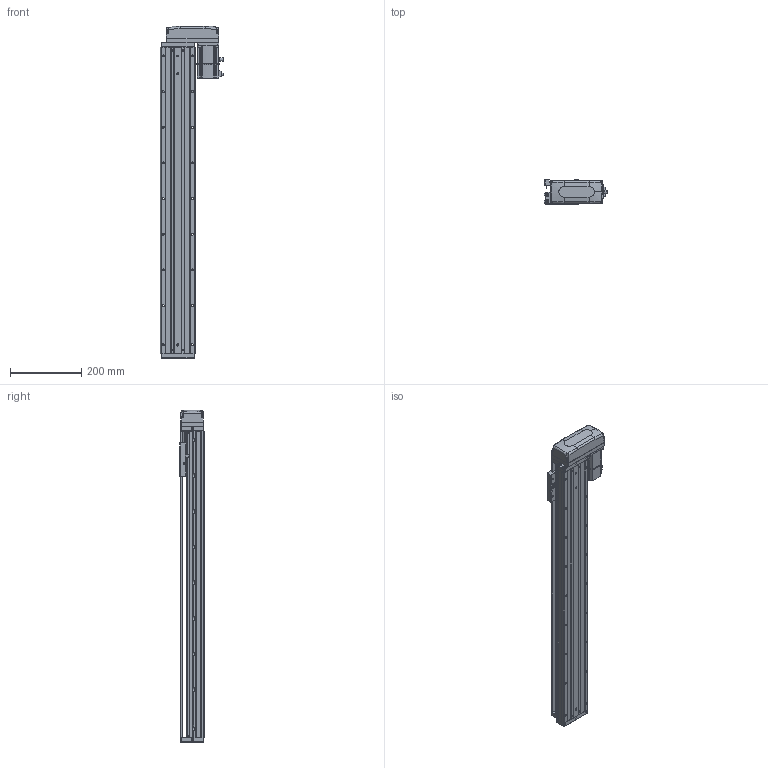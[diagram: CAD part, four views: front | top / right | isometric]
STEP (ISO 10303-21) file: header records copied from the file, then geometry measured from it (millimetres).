
FILE_DESCRIPTION (( 'STEP AP203' ), '1' );
FILE_NAME ('KTHA100-700-BL-M20-C4L.step', '2022-04-26T01:49:44', ( '微软用户' ), ( '微软中国' ), 'SwSTEP 2.0', 'SolidWorks 2020', '' );
FILE_SCHEMA (( 'CONFIG_CONTROL_DESIGN' ));
Length unit declared in the file: millimetre
Products named in the file (17): KTHA100-004; CTHA60-016; KTHA100-005; GBT 70.3-M3℅6; GB¨uT 70.2-M3¡Á5_M3¡Á6; CTHA60-017; _X2_4E0983F1_X0_200W_1; EE_SX911P_R; CTHA60-021; CTHA86-015-1_CTHA86-015-2; GBT77-2000 M3×3; CTHA86-033; KTHA100-001_860; GBT 70.1-M3℅6; KTHA100-700-BL-M20-C4L; KTHA100-002; GBT70.1 M5℅16
Assembly tree (57 placements, depth 2):
  KTHA100-700-BL-M20-C4L
    KTHA100-001_860
    KTHA100-002
    KTHA100-004
    KTHA100-005
    GB¨uT 70.2-M3¡Á5_M3¡Á6  x6
    EE_SX911P_R  x3
    CTHA60-017  x3
    CTHA60-021  x2
    GBT77-2000 M3×3  x6
    GBT 70.1-M3℅6  x10
    GBT70.1 M5℅16  x14
    CTHA60-016  x2
    GBT 70.3-M3℅6  x4
    _X2_4E0983F1_X0_200W_1
    CTHA86-015-1_CTHA86-015-2
    CTHA86-033
Bounding box: 177.7 x 68 x 931 mm (x, y, z)
Volume: 4050104.8 mm3; surface area: 659339.5 mm2
Topology: 60 solids, 60 shells, 2457 faces, 5889 edges, 3652 vertices
Faces by surface type: plane 1256, cylinder 683, cone 311, torus 116, bspline 75, sphere 16
Entity records: 42594 total; most frequent: CARTESIAN_POINT 8560, DIRECTION 6602, ORIENTED_EDGE 6390, EDGE_CURVE 3195, AXIS2_PLACEMENT_3D 2302, VERTEX_POINT 2012, VECTOR 1998, LINE 1998
